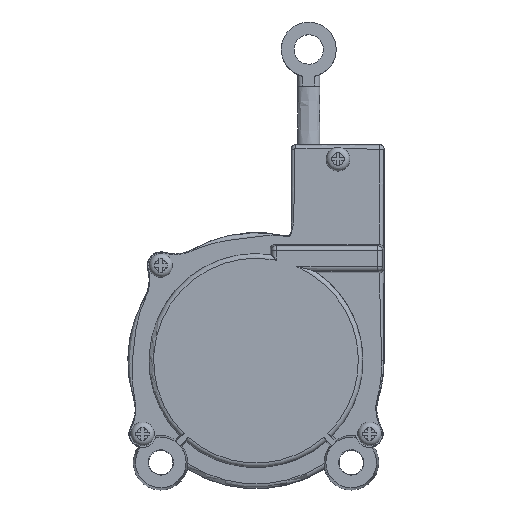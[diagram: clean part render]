
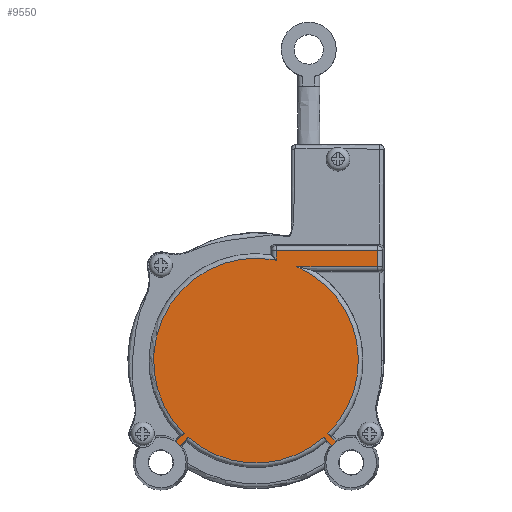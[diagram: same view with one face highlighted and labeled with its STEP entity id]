
A CAD part, top view. The second image highlights one B-rep face of the part: STEP entity #9550.
In plain terms, the highlighted planar face has unit normal (0, 0, 1).
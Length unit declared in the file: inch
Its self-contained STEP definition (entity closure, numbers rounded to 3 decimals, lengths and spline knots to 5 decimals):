
#934=LINE('',#18348,#1393);
#937=LINE('',#18370,#1396);
#946=LINE('',#25925,#1405);
#950=LINE('',#25947,#1409);
#956=LINE('',#25966,#1415);
#957=LINE('',#25970,#1416);
#958=LINE('',#25974,#1417);
#959=LINE('',#25978,#1418);
#1393=VECTOR('',#12923,0.69327);
#1396=VECTOR('',#12930,0.0668);
#1405=VECTOR('',#13049,0.11127);
#1409=VECTOR('',#13057,0.55173);
#1415=VECTOR('',#13079,0.08065);
#1416=VECTOR('',#13082,0.08065);
#1417=VECTOR('',#13085,0.08065);
#1418=VECTOR('',#13088,0.08065);
#2097=FACE_OUTER_BOUND('',#2653,.T.);
#2653=EDGE_LOOP('',(#8232,#8233,#8234,#8235,#8236,#8237,#8238,#8239,#8240,
#8241,#8242,#8243,#8244));
#3286=CIRCLE('',#10615,0.699);
#3287=CIRCLE('',#10616,0.17325);
#3288=CIRCLE('',#10617,0.699);
#3289=CIRCLE('',#10618,0.17325);
#3290=CIRCLE('',#10619,0.699);
#4174=VERTEX_POINT('',#18343);
#4175=VERTEX_POINT('',#18347);
#4178=VERTEX_POINT('',#18355);
#4249=VERTEX_POINT('',#25916);
#4251=VERTEX_POINT('',#25930);
#4256=VERTEX_POINT('',#25963);
#4257=VERTEX_POINT('',#25965);
#4258=VERTEX_POINT('',#25967);
#4259=VERTEX_POINT('',#25969);
#4260=VERTEX_POINT('',#25971);
#4261=VERTEX_POINT('',#25973);
#4262=VERTEX_POINT('',#25975);
#4263=VERTEX_POINT('',#25977);
#5507=EDGE_CURVE('',#4174,#4175,#934,.T.);
#5512=EDGE_CURVE('',#4178,#4174,#937,.T.);
#5612=EDGE_CURVE('',#4175,#4249,#946,.T.);
#5617=EDGE_CURVE('',#4249,#4251,#950,.T.);
#5625=EDGE_CURVE('',#4256,#4178,#3286,.T.);
#5626=EDGE_CURVE('',#4257,#4256,#956,.T.);
#5627=EDGE_CURVE('',#4258,#4257,#3287,.T.);
#5628=EDGE_CURVE('',#4259,#4258,#957,.T.);
#5629=EDGE_CURVE('',#4260,#4259,#3288,.T.);
#5630=EDGE_CURVE('',#4261,#4260,#958,.T.);
#5631=EDGE_CURVE('',#4262,#4261,#3289,.T.);
#5632=EDGE_CURVE('',#4263,#4262,#959,.T.);
#5633=EDGE_CURVE('',#4251,#4263,#3290,.T.);
#8232=ORIENTED_EDGE('',*,*,#5625,.F.);
#8233=ORIENTED_EDGE('',*,*,#5626,.F.);
#8234=ORIENTED_EDGE('',*,*,#5627,.F.);
#8235=ORIENTED_EDGE('',*,*,#5628,.F.);
#8236=ORIENTED_EDGE('',*,*,#5629,.F.);
#8237=ORIENTED_EDGE('',*,*,#5630,.F.);
#8238=ORIENTED_EDGE('',*,*,#5631,.F.);
#8239=ORIENTED_EDGE('',*,*,#5632,.F.);
#8240=ORIENTED_EDGE('',*,*,#5633,.F.);
#8241=ORIENTED_EDGE('',*,*,#5617,.F.);
#8242=ORIENTED_EDGE('',*,*,#5612,.F.);
#8243=ORIENTED_EDGE('',*,*,#5507,.F.);
#8244=ORIENTED_EDGE('',*,*,#5512,.F.);
#8947=PLANE('',#10614);
#9550=ADVANCED_FACE('',(#2097),#8947,.T.);
#10614=AXIS2_PLACEMENT_3D('',#25962,#13075,#13076);
#10615=AXIS2_PLACEMENT_3D('',#25964,#13077,#13078);
#10616=AXIS2_PLACEMENT_3D('',#25968,#13080,#13081);
#10617=AXIS2_PLACEMENT_3D('',#25972,#13083,#13084);
#10618=AXIS2_PLACEMENT_3D('',#25976,#13086,#13087);
#10619=AXIS2_PLACEMENT_3D('',#25979,#13089,#13090);
#12923=DIRECTION('',(1.,0.,0.));
#12930=DIRECTION('',(0.,1.,0.));
#13049=DIRECTION('',(0.,-1.,0.));
#13057=DIRECTION('',(-1.,0.,0.));
#13075=DIRECTION('center_axis',(0.,0.,1.));
#13076=DIRECTION('ref_axis',(1.,0.,0.));
#13077=DIRECTION('center_axis',(0.,0.,-1.));
#13078=DIRECTION('ref_axis',(-1.,0.,0.));
#13079=DIRECTION('',(0.683,0.73,0.));
#13080=DIRECTION('center_axis',(0.,0.,1.));
#13081=DIRECTION('ref_axis',(-0.822,0.569,0.));
#13082=DIRECTION('',(-0.683,-0.73,0.));
#13083=DIRECTION('center_axis',(0.,0.,-1.));
#13084=DIRECTION('ref_axis',(-1.,0.,0.));
#13085=DIRECTION('',(-0.683,0.73,0.));
#13086=DIRECTION('center_axis',(0.,0.,1.));
#13087=DIRECTION('ref_axis',(-0.972,-0.237,0.));
#13088=DIRECTION('',(0.683,-0.73,0.));
#13089=DIRECTION('center_axis',(0.,0.,-1.));
#13090=DIRECTION('ref_axis',(-1.,0.,0.));
#18343=CARTESIAN_POINT('',(0.13755,0.75213,0.408));
#18347=CARTESIAN_POINT('',(0.83082,0.75213,0.408));
#18348=CARTESIAN_POINT('',(0.13755,0.75213,0.408));
#18355=CARTESIAN_POINT('',(0.13755,0.68533,0.408));
#18370=CARTESIAN_POINT('',(0.13755,0.68533,0.408));
#25916=CARTESIAN_POINT('',(0.83082,0.64087,0.408));
#25925=CARTESIAN_POINT('',(0.83082,0.75213,0.408));
#25930=CARTESIAN_POINT('',(0.27909,0.64087,0.408));
#25947=CARTESIAN_POINT('',(0.83082,0.64087,0.408));
#25962=CARTESIAN_POINT('Origin',(0.,0.,
0.408));
#25963=CARTESIAN_POINT('',(-0.49121,-0.4973,0.408));
#25964=CARTESIAN_POINT('Origin',(0.,0.,
0.408));
#25965=CARTESIAN_POINT('',(-0.5463,-0.55621,0.408));
#25966=CARTESIAN_POINT('',(-0.5463,-0.55621,0.408));
#25967=CARTESIAN_POINT('',(-0.51845,-0.58226,0.408));
#25968=CARTESIAN_POINT('Origin',(-0.65,-0.695,0.408));
#25969=CARTESIAN_POINT('',(-0.46336,-0.52335,0.408));
#25970=CARTESIAN_POINT('',(-0.46336,-0.52335,0.408));
#25971=CARTESIAN_POINT('',(0.46336,-0.52335,0.408));
#25972=CARTESIAN_POINT('Origin',(0.,0.,
0.408));
#25973=CARTESIAN_POINT('',(0.51845,-0.58226,0.408));
#25974=CARTESIAN_POINT('',(0.51845,-0.58226,0.408));
#25975=CARTESIAN_POINT('',(0.5463,-0.55621,0.408));
#25976=CARTESIAN_POINT('Origin',(0.65,-0.695,0.408));
#25977=CARTESIAN_POINT('',(0.49121,-0.4973,0.408));
#25978=CARTESIAN_POINT('',(0.49121,-0.4973,0.408));
#25979=CARTESIAN_POINT('Origin',(0.,0.,
0.408));
